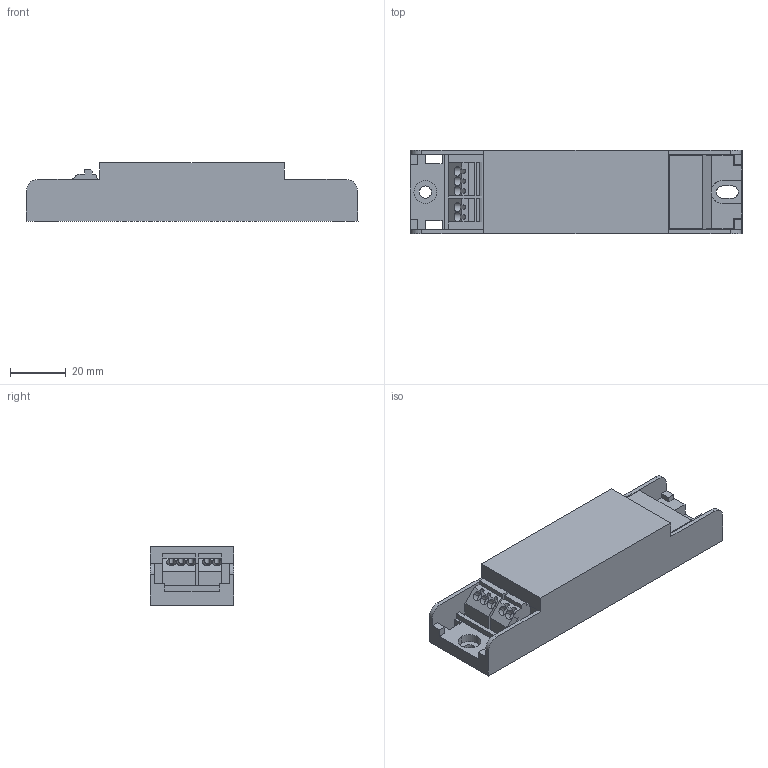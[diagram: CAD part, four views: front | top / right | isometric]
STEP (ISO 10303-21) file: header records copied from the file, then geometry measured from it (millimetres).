
FILE_DESCRIPTION((''),'2;1');
FILE_NAME('15014417Z_DATAMEC','2021-04-13T16:12:55',('Juergen.Hrach'),(''),'CREO PARAMETRIC BY PTC INC, 2019164','CREO PARAMETRIC BY PTC INC, 2019164','');
FILE_SCHEMA(('CONFIG_CONTROL_DESIGN'));
Length unit declared in the file: millimetre
Products named in the file (1): 15014417Z_DATAMEC
Bounding box: 119 x 30 x 21 mm (x, y, z)
Volume: 57133.1 mm3; surface area: 16042.4 mm2
Topology: 1 solids, 1 shells, 128 faces, 373 edges, 246 vertices
Faces by surface type: plane 102, cylinder 26
Entity records: 4295 total; most frequent: CARTESIAN_POINT 814, ORIENTED_EDGE 746, DIRECTION 676, EDGE_CURVE 373, VECTOR 314, LINE 314, VERTEX_POINT 246, AXIS2_PLACEMENT_3D 181
